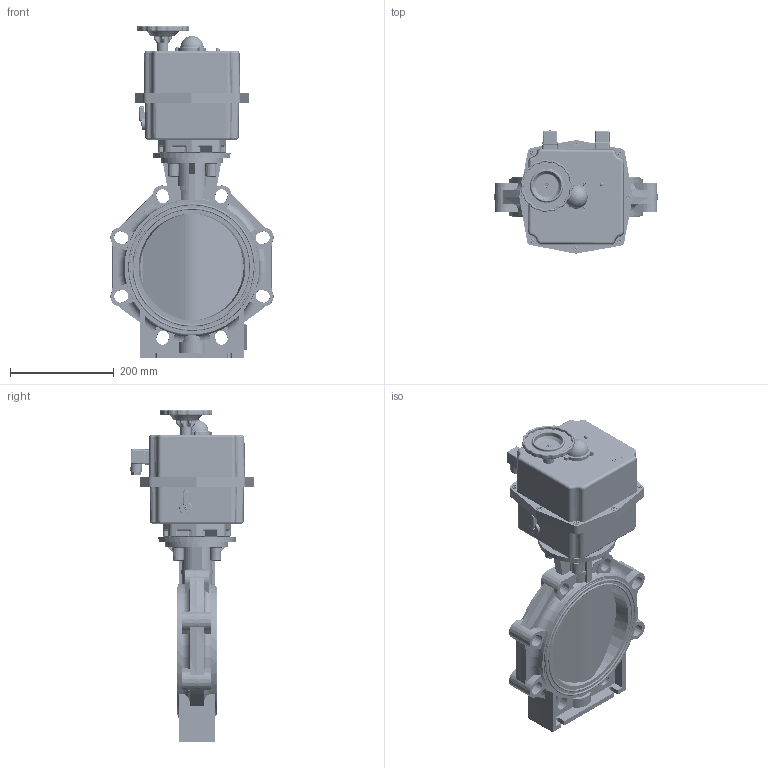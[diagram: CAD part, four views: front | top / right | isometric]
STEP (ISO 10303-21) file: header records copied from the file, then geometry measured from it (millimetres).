
FILE_DESCRIPTION((''),'2;1');
FILE_NAME('C:\Users\Gi\Desktop\PV15011F 200 S140.stp','2025-03-25T17:07:45',('Gi'),(''),'Autodesk Inventor 2012','Autodesk Inventor 2012','');
FILE_SCHEMA(('CONFIG_CONTROL_DESIGN'));
Length unit declared in the file: millimetre
Products named in the file (1): Bauteil18
Bounding box: 313.73 x 236.87 x 638.5 mm (x, y, z)
Volume: 5717142 mm3; surface area: 892513.8 mm2
Topology: 5 solids, 67 shells, 4102 faces, 10562 edges, 6680 vertices
Faces by surface type: plane 1617, cylinder 1120, cone 709, torus 523, bspline 76, sphere 57
Full cylindrical faces by diameter (mm): 1.5 x8, 1.913 x3, 2.29 x3, 2.5 x4, 3 x27, 3.25 x12, 3.5 x13, 3.9 x1, 4 x6, 4.134 x36, 4.2 x1, 4.25 x2, 4.5 x1, 4.6 x1, 5 x83, 5.5 x8, 5.7 x3, 6 x2, 6.4 x8, 6.426 x7, 6.5 x4, 7 x3, 8 x60, 8.2 x8, 8.5 x8, 9.75 x1, 10 x5, 10.2 x4, 10.5 x2, 10.8 x1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
Entity records: 127502 total; most frequent: CARTESIAN_POINT 29858, DIRECTION 20193, ORIENTED_EDGE 17800, EDGE_CURVE 8900, AXIS2_PLACEMENT_3D 8001, VERTEX_POINT 6198, EDGE_LOOP 5650, VECTOR 4191
